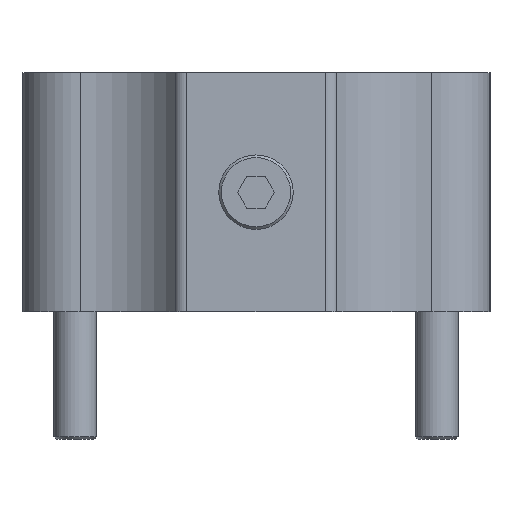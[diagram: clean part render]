
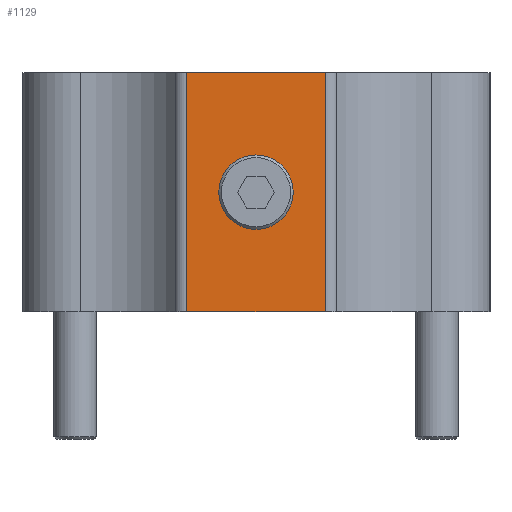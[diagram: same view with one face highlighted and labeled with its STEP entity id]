
A CAD part, left-side view. The second image highlights one B-rep face of the part: STEP entity #1129.
In plain terms, the highlighted planar face has unit normal (-1, 0, 0).
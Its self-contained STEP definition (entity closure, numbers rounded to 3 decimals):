
#1129=ADVANCED_FACE('',(#2361,#2362),#2363,.F.);
#2361=FACE_OUTER_BOUND('',#3632,.T.);
#2362=FACE_BOUND('',#3633,.T.);
#2363=PLANE('',#3634);
#3632=EDGE_LOOP('',(#6437,#6438,#6439,#6440));
#3633=EDGE_LOOP('',(#6441));
#3634=AXIS2_PLACEMENT_3D('',#6442,#6443,#6444);
#6437=ORIENTED_EDGE('',*,*,#7372,.T.);
#6438=ORIENTED_EDGE('',*,*,#7189,.F.);
#6439=ORIENTED_EDGE('',*,*,#7148,.F.);
#6440=ORIENTED_EDGE('',*,*,#6990,.T.);
#6441=ORIENTED_EDGE('',*,*,#6875,.F.);
#6442=CARTESIAN_POINT('',(-110.0,-13.055,-45.0));
#6443=DIRECTION('',(1.0,0.,0.0));
#6444=DIRECTION('',(0.,-1.0,0.0));
#6875=EDGE_CURVE('',#8140,#8140,#8141,.F.);
#6990=EDGE_CURVE('',#8326,#8324,#8327,.T.);
#7148=EDGE_CURVE('',#8326,#8573,#8574,.T.);
#7189=EDGE_CURVE('',#8573,#8640,#8644,.T.);
#7372=EDGE_CURVE('',#8324,#8640,#8910,.T.);
#8140=VERTEX_POINT('',#9980);
#8141=CIRCLE('',#9981,7.0);
#8324=VERTEX_POINT('',#10216);
#8326=VERTEX_POINT('',#10218);
#8327=LINE('',#10219,#10220);
#8573=VERTEX_POINT('',#10531);
#8574=LINE('',#10532,#10533);
#8640=VERTEX_POINT('',#10611);
#8644=LINE('',#10616,#10617);
#8910=LINE('',#10946,#10947);
#9980=CARTESIAN_POINT('',(-110.0,7.,-22.5));
#9981=AXIS2_PLACEMENT_3D('',#11899,#11900,#11901);
#10216=CARTESIAN_POINT('',(-110.0,-13.055,0.0));
#10218=CARTESIAN_POINT('',(-110.0,-13.055,-45.0));
#10219=CARTESIAN_POINT('',(-110.0,-13.055,-45.0));
#10220=VECTOR('',#12050,1.0);
#10531=CARTESIAN_POINT('',(-110.0,13.055,-45.0));
#10532=CARTESIAN_POINT('',(-110.0,-13.055,-45.0));
#10533=VECTOR('',#12284,1.0);
#10611=CARTESIAN_POINT('',(-110.0,13.055,0.0));
#10616=CARTESIAN_POINT('',(-110.0,13.055,-45.0));
#10617=VECTOR('',#12367,1.0);
#10946=CARTESIAN_POINT('',(-110.0,-13.055,0.0));
#10947=VECTOR('',#12629,1.0);
#11899=CARTESIAN_POINT('',(-110.0,0.,-22.5));
#11900=DIRECTION('',(1.0,0.,0.0));
#11901=DIRECTION('',(0.,1.0,0.0));
#12050=DIRECTION('',(0.0,0.0,1.0));
#12284=DIRECTION('',(0.,1.0,0.0));
#12367=DIRECTION('',(0.0,0.0,1.0));
#12629=DIRECTION('',(0.,1.0,0.0));
